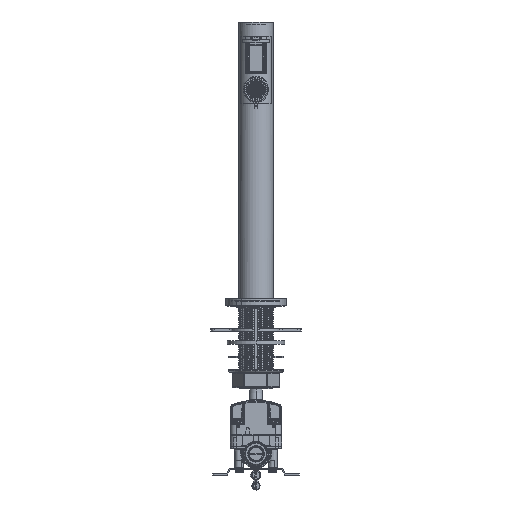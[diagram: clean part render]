
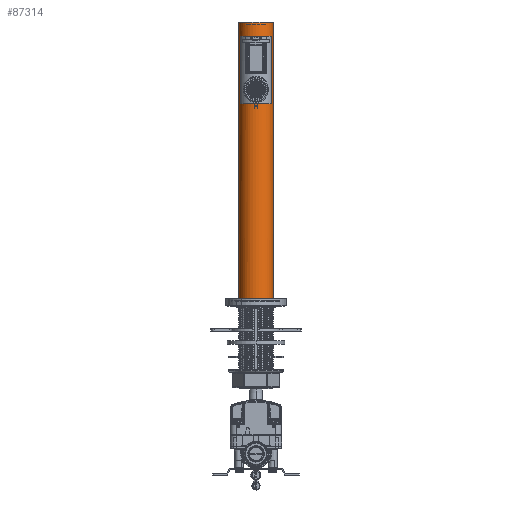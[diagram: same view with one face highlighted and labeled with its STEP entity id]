
A CAD part, front view. The second image highlights one B-rep face of the part: STEP entity #87314.
In plain terms, the highlighted cylindrical face has radius 14.3 mm (diameter 28.6 mm), a partial arc.
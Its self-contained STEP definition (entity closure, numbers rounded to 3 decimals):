
#9430 = VECTOR ( 'NONE', #306739, 1000. ) ;
#9608 = VERTEX_POINT ( 'NONE', #204736 ) ;
#10327 = DIRECTION ( 'NONE',  ( 0., 0., -1. ) ) ;
#17342 = DIRECTION ( 'NONE',  ( 0., 0., -1. ) ) ;
#27599 = EDGE_CURVE ( 'NONE', #9608, #336283, #78917, .T. ) ;
#27785 = EDGE_CURVE ( 'NONE', #179603, #318700, #336671, .T. ) ;
#28449 = CARTESIAN_POINT ( 'NONE',  ( 0., 0., 237. ) ) ;
#31984 = ORIENTED_EDGE ( 'NONE', *, *, #151560, .T. ) ;
#33825 = DIRECTION ( 'NONE',  ( 0., 0., -1. ) ) ;
#36905 = LINE ( 'NONE', #186737, #170919 ) ;
#60601 = LINE ( 'NONE', #288372, #367895 ) ;
#67996 = ORIENTED_EDGE ( 'NONE', *, *, #274406, .F. ) ;
#78917 = LINE ( 'NONE', #190996, #9430 ) ;
#80769 = DIRECTION ( 'NONE',  ( 0., 0., -1. ) ) ;
#87314 = ADVANCED_FACE ( 'NONE', ( #113891, #231513 ), #235273, .T. ) ;
#89834 = DIRECTION ( 'NONE',  ( 0., 0., 1. ) ) ;
#93601 = CARTESIAN_POINT ( 'NONE',  ( 0., 0., 293. ) ) ;
#95874 = EDGE_CURVE ( 'NONE', #184672, #179603, #36905, .T. ) ;
#96405 = AXIS2_PLACEMENT_3D ( 'NONE', #201197, #176457, #121395 ) ;
#99719 = CIRCLE ( 'NONE', #293680, 14.3 ) ;
#103742 = CARTESIAN_POINT ( 'NONE',  ( -12.98, -6., 293. ) ) ;
#111849 = EDGE_CURVE ( 'NONE', #272442, #318700, #291888, .T. ) ;
#113891 = FACE_OUTER_BOUND ( 'NONE', #193543, .T. ) ;
#121395 = DIRECTION ( 'NONE',  ( -1., 0., 0. ) ) ;
#122565 = VERTEX_POINT ( 'NONE', #311798 ) ;
#123050 = CIRCLE ( 'NONE', #335180, 14.3 ) ;
#144182 = DIRECTION ( 'NONE',  ( 0., 0., 1. ) ) ;
#146002 = DIRECTION ( 'NONE',  ( 0., 0., 1. ) ) ;
#151560 = EDGE_CURVE ( 'NONE', #336283, #195916, #123050, .T. ) ;
#170919 = VECTOR ( 'NONE', #10327, 1000. ) ;
#173003 = AXIS2_PLACEMENT_3D ( 'NONE', #340800, #80769, #260941 ) ;
#176457 = DIRECTION ( 'NONE',  ( 0., 0., -1. ) ) ;
#179603 = VERTEX_POINT ( 'NONE', #279578 ) ;
#180497 = ORIENTED_EDGE ( 'NONE', *, *, #317930, .F. ) ;
#184672 = VERTEX_POINT ( 'NONE', #189945 ) ;
#186737 = CARTESIAN_POINT ( 'NONE',  ( 14.3, 0., 305. ) ) ;
#189945 = CARTESIAN_POINT ( 'NONE',  ( 14.3, 0., 304.5 ) ) ;
#190996 = CARTESIAN_POINT ( 'NONE',  ( -12.98, -6., 237. ) ) ;
#193543 = EDGE_LOOP ( 'NONE', ( #332053, #278292, #260244, #251100 ) ) ;
#195916 = VERTEX_POINT ( 'NONE', #228040 ) ;
#201197 = CARTESIAN_POINT ( 'NONE',  ( 0., 0., 305. ) ) ;
#204736 = CARTESIAN_POINT ( 'NONE',  ( -12.98, -6., 237. ) ) ;
#205633 = DIRECTION ( 'NONE',  ( 1., 0., 0. ) ) ;
#212839 = CARTESIAN_POINT ( 'NONE',  ( 0., 0., 304.5 ) ) ;
#228040 = CARTESIAN_POINT ( 'NONE',  ( 12.98, -6., 293. ) ) ;
#231513 = FACE_BOUND ( 'NONE', #278462, .T. ) ;
#235273 = CYLINDRICAL_SURFACE ( 'NONE', #96405, 14.3 ) ;
#251100 = ORIENTED_EDGE ( 'NONE', *, *, #27785, .F. ) ;
#251528 = CARTESIAN_POINT ( 'NONE',  ( -14.3, 0., 304.5 ) ) ;
#252883 = EDGE_CURVE ( 'NONE', #184672, #272442, #99719, .T. ) ;
#259938 = DIRECTION ( 'NONE',  ( 1., 0., 0. ) ) ;
#260244 = ORIENTED_EDGE ( 'NONE', *, *, #111849, .T. ) ;
#260941 = DIRECTION ( 'NONE',  ( -1., 0., 0. ) ) ;
#272442 = VERTEX_POINT ( 'NONE', #251528 ) ;
#274406 = EDGE_CURVE ( 'NONE', #122565, #195916, #60601, .T. ) ;
#278292 = ORIENTED_EDGE ( 'NONE', *, *, #252883, .T. ) ;
#278462 = EDGE_LOOP ( 'NONE', ( #180497, #307280, #31984, #67996 ) ) ;
#279578 = CARTESIAN_POINT ( 'NONE',  ( 14.3, 0., 75. ) ) ;
#288372 = CARTESIAN_POINT ( 'NONE',  ( 12.98, -6., 237. ) ) ;
#291888 = LINE ( 'NONE', #293788, #303669 ) ;
#293680 = AXIS2_PLACEMENT_3D ( 'NONE', #212839, #17342, #307633 ) ;
#293788 = CARTESIAN_POINT ( 'NONE',  ( -14.3, 0., 305. ) ) ;
#303669 = VECTOR ( 'NONE', #33825, 1000. ) ;
#306739 = DIRECTION ( 'NONE',  ( 0., 0., 1. ) ) ;
#307280 = ORIENTED_EDGE ( 'NONE', *, *, #27599, .T. ) ;
#307633 = DIRECTION ( 'NONE',  ( 1., 0., 0. ) ) ;
#311798 = CARTESIAN_POINT ( 'NONE',  ( 12.98, -6., 237. ) ) ;
#317930 = EDGE_CURVE ( 'NONE', #9608, #122565, #325355, .T. ) ;
#318700 = VERTEX_POINT ( 'NONE', #371531 ) ;
#325355 = CIRCLE ( 'NONE', #355688, 14.3 ) ;
#332053 = ORIENTED_EDGE ( 'NONE', *, *, #95874, .F. ) ;
#335180 = AXIS2_PLACEMENT_3D ( 'NONE', #93601, #89834, #205633 ) ;
#336283 = VERTEX_POINT ( 'NONE', #103742 ) ;
#336671 = CIRCLE ( 'NONE', #173003, 14.3 ) ;
#340800 = CARTESIAN_POINT ( 'NONE',  ( 0., 0., 75. ) ) ;
#355688 = AXIS2_PLACEMENT_3D ( 'NONE', #28449, #144182, #259938 ) ;
#367895 = VECTOR ( 'NONE', #146002, 1000. ) ;
#371531 = CARTESIAN_POINT ( 'NONE',  ( -14.3, 0., 75. ) ) ;
